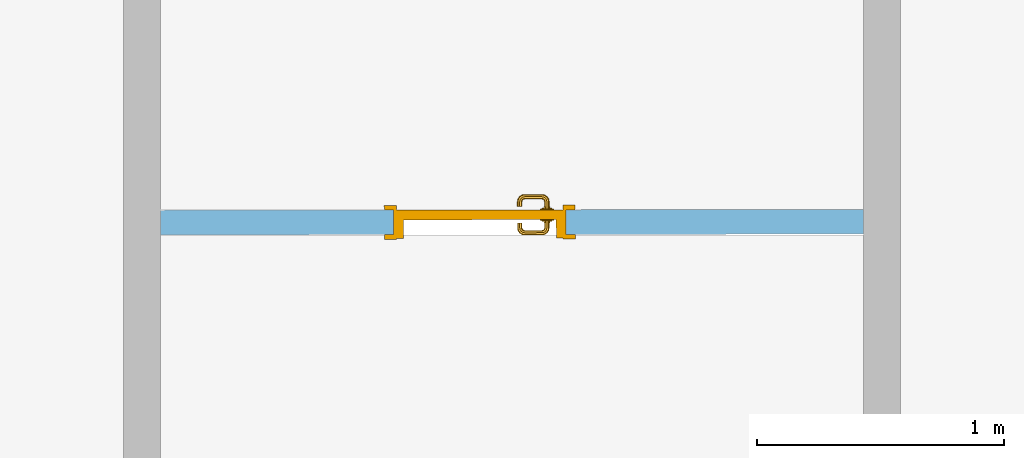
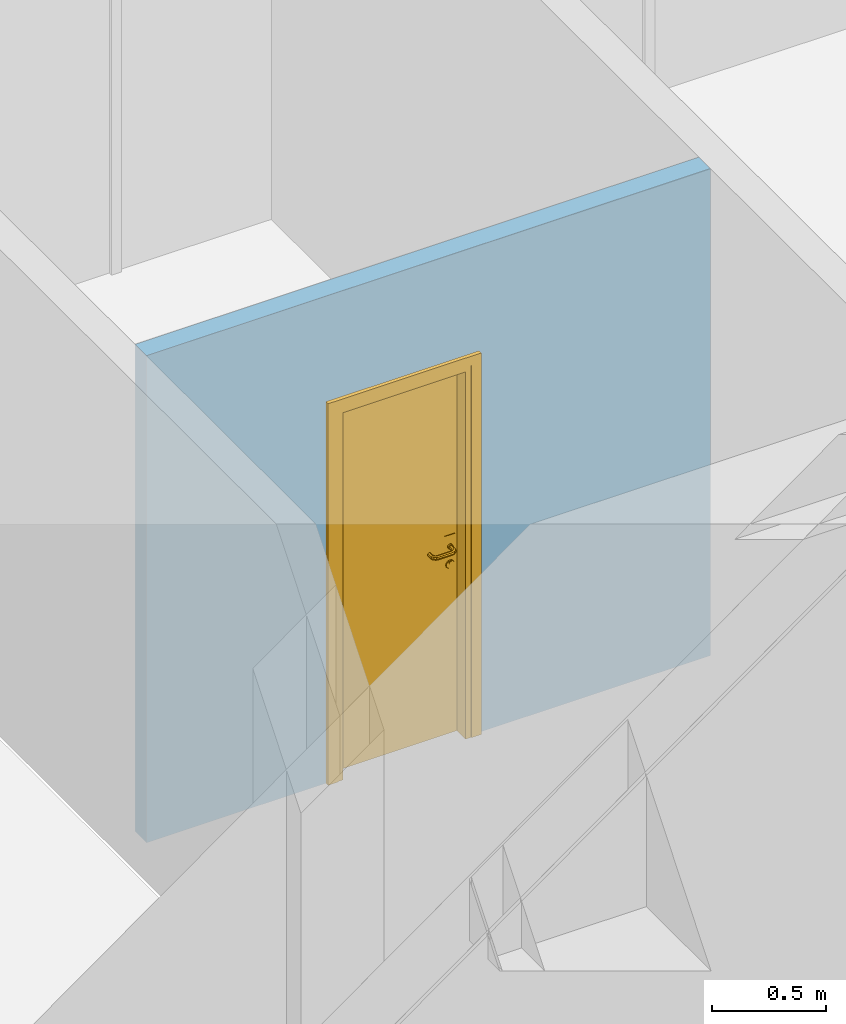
# One storey, part 42 of 127: 1 door, 1 opening, plus 1 element that does not belong to this part.
"""IFC2X3 building model written with IfcOpenShell, lengths in millimetres."""

from ifc_helpers import new_model, entity, si_unit, converted_unit, derived_unit, money_unit, direction, frame, origin_with_axes, origin_2d_with_axis, place, context, subcontext, project, spatial, polyline, rectangle, outline, extrude, open_shell, faceted_brep, surface_model, material, layer, layer_set, layer_usage, type_object, element, fill, save


model = new_model("IFC2X3")

# Units and contexts
model_context = context("Model", 3, precision=1e-05, world=origin_with_axes(), true_north=direction((0.0, 1.0)))
body_context = subcontext(model_context, "Body", "Model", "MODEL_VIEW")
ifc_project = project(units=[si_unit("LENGTHUNIT", "METRE", prefix="MILLI"), si_unit("AREAUNIT", "SQUARE_METRE"), si_unit("VOLUMEUNIT", "CUBIC_METRE"), converted_unit("PLANEANGLEUNIT", "DEGREE", entity("IfcPlaneAngleMeasure", 0.0174532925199), si_unit("PLANEANGLEUNIT", "RADIAN"), dimensions=[0, 0, 0, 0, 0, 0, 0]), si_unit("SOLIDANGLEUNIT", "STERADIAN"), money_unit("EUR"), converted_unit("TIMEUNIT", "Year", entity("IfcTimeMeasure", 31556926.0), si_unit("TIMEUNIT", "SECOND"), dimensions=[0, 0, 1, 0, 0, 0, 0]), si_unit("MASSUNIT", "GRAM", prefix="KILO"), si_unit("THERMODYNAMICTEMPERATUREUNIT", "DEGREE_CELSIUS"), si_unit("LUMINOUSINTENSITYUNIT", "LUMEN"), si_unit("ENERGYUNIT", "JOULE", prefix="MEGA"), derived_unit("THERMALCONDUCTANCEUNIT", [(si_unit("POWERUNIT", "WATT"), 1), (si_unit("LENGTHUNIT", "METRE"), -1), (si_unit("THERMODYNAMICTEMPERATUREUNIT", "KELVIN"), -1)]), derived_unit("SPECIFICHEATCAPACITYUNIT", [(si_unit("ENERGYUNIT", "JOULE"), 1), (si_unit("MASSUNIT", "GRAM", prefix="KILO"), -1), (si_unit("THERMODYNAMICTEMPERATUREUNIT", "KELVIN"), -1)]), derived_unit("MASSDENSITYUNIT", [(si_unit("MASSUNIT", "GRAM", prefix="KILO"), 1), (si_unit("VOLUMEUNIT", "CUBIC_METRE"), -1)])], contexts=[model_context])

# Site, building, storey
site_placement = place(None, origin_with_axes())
site = spatial("IfcSite", under=ifc_project, at=site_placement, Name="Site", CompositionType="ELEMENT")
building_placement = place(site_placement, origin_with_axes())
building = spatial("IfcBuilding", under=site, at=building_placement, Name="Building", CompositionType="ELEMENT")
storey_placement = place(building_placement, origin_with_axes())
storey = spatial("IfcBuildingStorey", under=building, at=storey_placement, Name="1 KORRUS", CompositionType="ELEMENT", Elevation=0.0)

# Wall, opening, door
ifc_material = material(Name="Kivi -Ol.Olev Konstruktsioon")
ifc_layer = layer(ifc_material, 100.0, ventilated="UNKNOWN")
ifc_layer_set = layer_set([ifc_layer], Name="ol.olev ss 100")
ifc_layer_usage = layer_usage(ifc_layer_set, "AXIS2", "POSITIVE", 0.0)
wall_type = type_object("IfcWallType", Name="SW - 040", PredefinedType="NOTDEFINED")
wall_placement = place(storey_placement, frame((37004.3292711, 36838.5610702, 0.0), z_axis=(0.0, 0.0, 1.0), x_axis=(0.999999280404, 0.00119966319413, 0.0)))
wall = element("IfcWallStandardCase", 1, at=wall_placement, inside=storey, type_object=wall_type, material=ifc_layer_usage, Name="ol.olev ss 100", context=body_context, shape_type="SweptSolid", body=[
    extrude(outline(polyline([(150.000107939, 0.0), (2998.62652149, 0.0), (2998.74648789, 100.0), (150.120074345, 99.9999999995), (150.000107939, 0.0)])), origin_with_axes(), (0.0, 0.0, 1.0), 2600.0),
])
opening_placement = place(wall_placement, frame((1443.68667353, 0.0, 0.0), z_axis=(0.0, 0.0, 1.0), x_axis=(1.0, 0.0, 0.0)))
opening = element("IfcOpeningElement", 2, at=opening_placement, cuts=wall, Name="Siseuks * Door 22", context=body_context, shape_type="SweptSolid", body=[
    extrude(rectangle(XDim=700.0, YDim=2000.0, at=origin_2d_with_axis()), frame((0.0, -100.0, 1000.0), z_axis=(0.0, -1.0, 0.0), x_axis=(-1.0, 0.0, 0.0)), (0.0, 0.0, -1.0), 300.000000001),
    extrude(rectangle(XDim=774.0, YDim=2037.0, at=origin_2d_with_axis()), frame((0.0, 0.0, 1018.5), z_axis=(0.0, -1.0, 0.0), x_axis=(-1.0, 0.0, 0.0)), (0.0, 0.0, 1.0), 100.0),
    extrude(rectangle(XDim=774.0, YDim=2037.0, at=origin_2d_with_axis()), frame((0.0, 99.9999999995, 1018.5), z_axis=(0.0, 1.0, 0.0), x_axis=(-1.0, 0.0, 0.0)), (0.0, 0.0, 1.0), 100.0),
])
door_style = type_object("IfcDoorStyle", Name="SU-B111   700×2\xa0000", ConstructionType="NOTDEFINED", OperationType="SINGLE_SWING_LEFT", ParameterTakesPrecedence=False, Sizeable=False)
door_placement = place(opening_placement, frame((-350.0, -9.09494701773e-10, 0.0), z_axis=(0.0, 0.0, 1.0), x_axis=(1.0, 0.0, 0.0)))
door = element("IfcDoor", 3, at=door_placement, inside=storey, type_object=door_style, Name="Siseuks * Door 22", OverallHeight=2000.0, OverallWidth=700.0, context=body_context, shape_type="SurfaceModel", body=[
    faceted_brep([(737.0, -18.9999999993, 0.0), (687.0, -18.9999999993, 0.0), (687.0, 9.09494701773e-10, 0.0), (737.0, 9.09494701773e-10, 0.0), (737.0, -18.9999999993, 2037.0), (687.0, -18.9999999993, 1987.0), (687.0, 9.09494701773e-10, 1987.0), (737.0, 9.09494701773e-10, 2037.0)], [[[0, 1, 2, 3]], [[0, 4, 5, 1]], [[1, 5, 6, 2]], [[3, 2, 6, 7]], [[4, 0, 3, 7]], [[5, 4, 7, 6]]]),
    faceted_brep([(-36.9999999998, -18.9999999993, 2037.0), (13.0000000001, -18.9999999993, 1987.0), (13.0, 0.0, 1987.0), (-36.9999999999, 0.0, 2037.0), (-36.9999999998, -18.9999999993, 0.0), (13.0000000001, -18.9999999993, 0.0), (13.0, 0.0, 0.0), (-36.9999999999, 0.0, 0.0)], [[[0, 1, 2, 3]], [[0, 4, 5, 1]], [[1, 5, 6, 2]], [[3, 2, 6, 7]], [[4, 0, 3, 7]], [[5, 4, 7, 6]]]),
    faceted_brep([(737.0, -18.9999999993, 2037.0), (687.0, -18.9999999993, 1987.0), (687.0, 9.09494701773e-10, 1987.0), (737.0, 9.09494701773e-10, 2037.0), (-36.9999999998, -18.9999999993, 2037.0), (13.0000000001, -18.9999999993, 1987.0), (13.0, 0.0, 1987.0), (-36.9999999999, 0.0, 2037.0)], [[[0, 1, 2, 3]], [[0, 4, 5, 1]], [[1, 5, 6, 2]], [[3, 2, 6, 7]], [[4, 0, 3, 7]], [[5, 4, 7, 6]]]),
    faceted_brep([(737.0, 119.0, 0.0), (737.0, 99.9999999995, 0.0), (687.0, 100.0, 0.0), (687.0, 119.000000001, 0.0), (737.0, 119.0, 2037.0), (737.0, 99.9999999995, 2037.0), (687.0, 100.0, 1987.0), (687.0, 119.000000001, 1987.0)], [[[0, 1, 2, 3]], [[4, 5, 1, 0]], [[1, 5, 6, 2]], [[3, 2, 6, 7]], [[0, 3, 7, 4]], [[7, 6, 5, 4]]]),
    faceted_brep([(-36.9999999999, 119.000000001, 2037.0), (-36.9999999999, 100.0, 2037.0), (13.0000000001, 100.0, 1987.0), (13.0000000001, 119.000000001, 1987.0), (-36.9999999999, 119.000000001, 0.0), (-36.9999999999, 100.0, 0.0), (13.0000000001, 100.0, 0.0), (13.0000000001, 119.000000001, 0.0)], [[[0, 1, 2, 3]], [[4, 5, 1, 0]], [[1, 5, 6, 2]], [[3, 2, 6, 7]], [[0, 3, 7, 4]], [[7, 6, 5, 4]]]),
    faceted_brep([(737.0, 119.0, 2037.0), (737.0, 99.9999999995, 2037.0), (687.0, 100.0, 1987.0), (687.0, 119.000000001, 1987.0), (-36.9999999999, 119.000000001, 2037.0), (-36.9999999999, 100.0, 2037.0), (13.0000000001, 100.0, 1987.0), (13.0000000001, 119.000000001, 1987.0)], [[[0, 1, 2, 3]], [[4, 5, 1, 0]], [[1, 5, 6, 2]], [[3, 2, 6, 7]], [[0, 3, 7, 4]], [[7, 6, 5, 4]]]),
    faceted_brep([(660.0, 60.0000000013, 0.0), (660.0, -14.9999999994, 0.0), (660.0, -14.9999999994, 1960.0), (660.0, 60.0000000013, 1960.0), (672.0, 59.9999999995, 0.0), (672.0, 100.0, 0.0), (700.0, 100.0, 0.0), (700.0, -14.9999999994, 0.0), (700.0, -14.9999999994, 1960.0), (672.0, 59.9999999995, 1960.0), (700.0, 100.0, 1960.0), (672.0, 100.0, 1960.0)], [[[0, 1, 2, 3]], [[4, 5, 6, 7, 1, 0]], [[1, 7, 8, 2]], [[9, 3, 2, 8, 10, 11]], [[9, 4, 0, 3]], [[11, 5, 4, 9]], [[11, 10, 6, 5]], [[6, 10, 8, 7]]]),
    faceted_brep([(28.0, 60.0000000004, 1960.0), (28.0, 100.0, 1960.0), (1.13686837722e-10, 100.0, 1960.0), (1.13686837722e-10, -15.0000000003, 1960.0), (40.0000000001, -14.9999999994, 1960.0), (40.0000000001, 60.0000000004, 1960.0), (28.0, 60.0000000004, 0.0), (28.0, 100.0, 0.0), (1.13686837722e-10, 100.0, 0.0), (1.13686837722e-10, -15.0000000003, 0.0), (40.0000000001, -14.9999999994, 0.0), (40.0000000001, 60.0000000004, 0.0)], [[[0, 1, 2, 3, 4, 5]], [[0, 6, 7, 1]], [[7, 8, 2, 1]], [[2, 8, 9, 3]], [[3, 9, 10, 4]], [[5, 4, 10, 11]], [[5, 11, 6, 0]], [[6, 11, 10, 9, 8, 7]]]),
    faceted_brep([(672.0, 100.0, 1972.0), (28.0, 100.0, 1972.0), (28.0, 100.0, 1960.0), (1.13686837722e-10, 100.0, 1960.0), (1.13686837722e-10, 100.0, 2000.0), (700.0, 100.0, 2000.0), (700.0, 100.0, 1960.0), (672.0, 100.0, 1960.0), (672.0, 59.9999999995, 1972.0), (28.0, 60.0000000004, 1972.0), (28.0, 60.0000000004, 1960.0), (40.0000000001, 60.0000000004, 1960.0), (40.0000000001, -14.9999999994, 1960.0), (1.13686837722e-10, -15.0000000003, 1960.0), (1.13686837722e-10, -15.0000000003, 2000.0), (700.0, -14.9999999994, 2000.0), (700.0, -14.9999999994, 1960.0), (672.0, 59.9999999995, 1960.0), (660.0, -14.9999999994, 1960.0), (660.0, 60.0000000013, 1960.0)], [[[0, 1, 2, 3, 4, 5, 6, 7]], [[0, 8, 9, 1]], [[1, 9, 10, 2]], [[10, 11, 12, 13, 3, 2]], [[4, 3, 13, 14]], [[5, 4, 14, 15]], [[6, 5, 15, 16]], [[17, 7, 6, 16, 18, 19]], [[7, 17, 8, 0]], [[10, 9, 8, 17, 19, 11]], [[19, 18, 12, 11]], [[12, 18, 16, 15, 14, 13]]]),
    faceted_brep([(650.5, 60.0000000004, 1060.0), (593.5, 60.0000000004, 1060.0), (593.5, 57.0000000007, 1060.0), (650.5, 57.0000000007, 1060.0), (650.5, 60.0000000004, 870.0), (593.5, 60.0000000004, 870.0), (593.5, 57.0000000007, 870.0), (650.5, 57.0000000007, 870.0)], [[[0, 1, 2, 3]], [[0, 4, 5, 1]], [[1, 5, 6, 2]], [[3, 2, 6, 7]], [[4, 0, 3, 7]], [[5, 4, 7, 6]]]),
    surface_model("IfcShellBasedSurfaceModel", [(612.0, 47.0000000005, 1000.0), (614.928932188, 46.9999999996, 992.928932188), (614.928932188, 27.6964393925, 992.928932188), (612.0, 27.9849140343, 1000.0), (622.0, 46.9999999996, 990.0), (622.0, 27.0, 990.0), (613.816790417, 22.1053251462, 992.928932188), (611.057796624, 23.2481377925, 1000.0), (614.928932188, 46.9999999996, 1007.07106781), (614.928932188, 27.6964393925, 1007.07106781), (629.071067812, 47.0000000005, 992.928932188), (629.071067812, 26.3035606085, 992.928932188), (620.47759065, 19.3463313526, 990.0), (611.044179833, 17.955820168, 992.928932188), (608.932537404, 20.0674625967, 1000.0), (613.816790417, 22.1053251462, 1007.07106781), (622.0, 46.9999999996, 1010.0), (622.0, 27.0, 1010.0), (632.0, 47.0000000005, 1000.0), (632.0, 26.0150859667, 1000.0), (627.138390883, 16.5873375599, 992.928932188), (616.142135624, 12.8578643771, 990.0), (606.894674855, 15.1832095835, 992.928932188), (605.751862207, 17.9422033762, 1000.0), (611.044179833, 17.955820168, 1007.07106781), (620.47759065, 19.3463313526, 1010.0), (629.071067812, 47.0000000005, 1007.07106781), (629.071067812, 26.3035606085, 1007.07106781), (629.897384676, 15.4445249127, 1000.0), (621.240091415, 7.75990858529, 992.928932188), (609.653668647, 8.52240935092, 990.0), (601.303560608, 14.0710678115, 992.928932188), (601.015085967, 16.9999999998, 1000.0), (606.894674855, 15.1832095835, 1007.07106781), (616.142135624, 12.8578643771, 1010.0), (627.138390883, 16.5873375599, 1007.07106781), (623.351733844, 5.64826615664, 1000.0), (612.41266244, 1.86160911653, 992.928932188), (602.0, 7.00000000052, 990.0), (532.696439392, 14.0710678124, 992.928932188), (532.984914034, 17.0000000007, 1000.0), (601.303560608, 14.0710678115, 1007.07106781), (609.653668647, 8.52240935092, 1010.0), (621.240091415, 7.75990858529, 1007.07106781), (613.555475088, -0.897384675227, 1000.0), (602.696439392, -0.0710678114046, 992.928932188), (532.0, 7.00000000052, 990.0), (527.105325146, 15.1832095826, 992.928932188), (528.248137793, 17.9422033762, 1000.0), (532.696439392, 14.0710678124, 1007.07106781), (602.0, 7.00000000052, 1010.0), (612.41266244, 1.86160911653, 1007.07106781), (602.984914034, -2.99999999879, 1000.0), (531.303560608, -0.0710678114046, 992.928932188), (524.346331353, 8.52240935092, 990.0), (522.955820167, 17.9558201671, 992.928932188), (525.067462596, 20.0674625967, 1000.0), (527.105325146, 15.1832095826, 1007.07106781), (532.0, 7.00000000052, 1010.0), (602.696439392, -0.0710678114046, 1007.07106781), (531.015085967, -2.9999999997, 1000.0), (521.58733756, 1.86160911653, 992.928932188), (517.857864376, 12.8578643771, 990.0), (520.183209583, 22.1053251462, 992.928932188), (522.942203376, 23.2481377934, 1000.0), (522.955820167, 17.9558201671, 1007.07106781), (524.346331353, 8.52240935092, 1010.0), (531.303560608, -0.0710678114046, 1007.07106781), (520.444524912, -0.897384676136, 1000.0), (512.759908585, 7.75990858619, 992.928932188), (513.52240935, 19.3463313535, 990.0), (519.071067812, 27.6964393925, 992.928932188), (522.0, 27.9849140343, 1000.0), (520.183209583, 22.1053251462, 1007.07106781), (517.857864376, 12.8578643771, 1010.0), (521.58733756, 1.86160911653, 1007.07106781), (510.648266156, 5.64826615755, 1000.0), (506.861609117, 16.5873375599, 992.928932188), (512.0, 27.000000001, 990.0), (519.071067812, 47.0000000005, 992.928932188), (522.0, 46.9999999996, 1000.0), (519.071067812, 27.6964393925, 1007.07106781), (513.52240935, 19.3463313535, 1010.0), (512.759908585, 7.75990858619, 1007.07106781), (504.102615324, 15.4445249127, 1000.0), (504.928932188, 26.3035606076, 992.928932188), (512.0, 47.0000000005, 990.0), (504.928932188, 46.9999999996, 992.928932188), (502.0, 47.0000000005, 1000.0), (504.928932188, 46.9999999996, 1007.07106781), (512.0, 47.0000000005, 1010.0), (519.071067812, 47.0000000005, 1007.07106781), (512.0, 27.000000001, 1010.0), (506.861609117, 16.5873375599, 1007.07106781), (502.0, 26.0150859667, 1000.0), (504.928932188, 26.3035606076, 1007.07106781)], [open_shell([[[0, 1, 2, 3]], [[1, 4, 5, 2]], [[3, 2, 6, 7]], [[8, 0, 3, 9]], [[4, 10, 11, 5]], [[2, 5, 12, 6]], [[7, 6, 13, 14]], [[9, 3, 7, 15]], [[16, 8, 9, 17]], [[10, 18, 19, 11]], [[5, 11, 20, 12]], [[6, 12, 21, 13]], [[14, 13, 22, 23]], [[15, 7, 14, 24]], [[17, 9, 15, 25]], [[26, 16, 17, 27]], [[18, 26, 27, 19]], [[11, 19, 28, 20]], [[12, 20, 29, 21]], [[13, 21, 30, 22]], [[23, 22, 31, 32]], [[24, 14, 23, 33]], [[25, 15, 24, 34]], [[27, 17, 25, 35]], [[19, 27, 35, 28]], [[20, 28, 36, 29]], [[21, 29, 37, 30]], [[22, 30, 38, 31]], [[32, 31, 39, 40]], [[33, 23, 32, 41]], [[34, 24, 33, 42]], [[35, 25, 34, 43]], [[28, 35, 43, 36]], [[29, 36, 44, 37]], [[30, 37, 45, 38]], [[31, 38, 46, 39]], [[40, 39, 47, 48]], [[41, 32, 40, 49]], [[42, 33, 41, 50]], [[43, 34, 42, 51]], [[36, 43, 51, 44]], [[37, 44, 52, 45]], [[38, 45, 53, 46]], [[39, 46, 54, 47]], [[48, 47, 55, 56]], [[49, 40, 48, 57]], [[50, 41, 49, 58]], [[51, 42, 50, 59]], [[44, 51, 59, 52]], [[45, 52, 60, 53]], [[46, 53, 61, 54]], [[47, 54, 62, 55]], [[56, 55, 63, 64]], [[57, 48, 56, 65]], [[58, 49, 57, 66]], [[59, 50, 58, 67]], [[52, 59, 67, 60]], [[53, 60, 68, 61]], [[54, 61, 69, 62]], [[55, 62, 70, 63]], [[64, 63, 71, 72]], [[65, 56, 64, 73]], [[66, 57, 65, 74]], [[67, 58, 66, 75]], [[60, 67, 75, 68]], [[61, 68, 76, 69]], [[62, 69, 77, 70]], [[63, 70, 78, 71]], [[72, 71, 79, 80]], [[73, 64, 72, 81]], [[74, 65, 73, 82]], [[75, 66, 74, 83]], [[68, 75, 83, 76]], [[69, 76, 84, 77]], [[70, 77, 85, 78]], [[71, 78, 86, 79]], [[80, 79, 86, 87, 88, 89, 90, 91]], [[81, 72, 80, 91]], [[82, 73, 81, 92]], [[83, 74, 82, 93]], [[76, 83, 93, 84]], [[77, 84, 94, 85]], [[78, 85, 87, 86]], [[85, 94, 88, 87]], [[94, 95, 89, 88]], [[95, 92, 90, 89]], [[92, 81, 91, 90]], [[93, 82, 92, 95]], [[84, 93, 95, 94]]])]),
    faceted_brep([(611.607695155, 47.0000000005, 994.0), (610.0, 47.0000000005, 1000.0), (609.0, 57.0000000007, 1000.0), (610.741669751, 56.9999999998, 993.5), (616.0, 47.0000000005, 989.607695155), (622.0, 46.9999999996, 988.0), (628.0, 47.0000000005, 989.607695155), (632.392304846, 47.0000000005, 994.0), (634.0, 47.0000000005, 1000.0), (632.392304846, 47.0000000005, 1006.0), (628.0, 47.0000000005, 1010.39230485), (622.0, 46.9999999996, 1012.0), (616.0, 47.0000000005, 1010.39230485), (611.607695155, 47.0000000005, 1006.0), (610.741669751, 56.9999999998, 1006.5), (615.5, 57.0000000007, 1011.25833025), (622.0, 56.9999999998, 1013.0), (628.5, 57.0000000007, 1011.25833025), (633.258330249, 57.0000000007, 1006.5), (635.0, 56.9999999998, 1000.0), (633.258330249, 57.0000000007, 993.5), (628.5, 57.0000000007, 988.741669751), (622.0, 56.9999999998, 987.0), (615.5, 57.0000000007, 988.741669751)], [[[0, 1, 2, 3]], [[1, 0, 4, 5, 6, 7, 8, 9, 10, 11, 12, 13]], [[1, 13, 14, 2]], [[2, 14, 15, 16, 17, 18, 19, 20, 21, 22, 23, 3]], [[4, 0, 3, 23]], [[5, 4, 23, 22]], [[6, 5, 22, 21]], [[7, 6, 21, 20]], [[8, 7, 20, 19]], [[9, 8, 19, 18]], [[10, 9, 18, 17]], [[11, 10, 17, 16]], [[12, 11, 16, 15]], [[13, 12, 15, 14]]]),
    faceted_brep([(604.679491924, 52.9999999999, 895.0), (602.0, 52.9999999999, 905.0), (600.0, 56.9999999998, 905.0), (602.947441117, 57.0000000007, 894.0), (612.0, 53.0000000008, 887.679491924), (622.0, 53.0000000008, 885.0), (632.0, 53.0000000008, 887.679491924), (639.320508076, 53.0000000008, 895.0), (642.0, 52.9999999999, 905.0), (639.320508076, 53.0000000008, 915.0), (632.0, 53.0000000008, 922.320508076), (622.0, 53.0000000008, 925.0), (612.0, 53.0000000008, 922.320508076), (604.679491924, 52.9999999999, 915.0), (602.947441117, 57.0000000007, 916.0), (611.0, 57.0000000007, 924.052558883), (622.0, 56.9999999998, 927.0), (633.0, 57.0000000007, 924.052558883), (641.052558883, 57.0000000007, 916.0), (644.0, 56.9999999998, 905.0), (641.052558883, 57.0000000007, 894.0), (633.0, 57.0000000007, 885.947441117), (622.0, 56.9999999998, 883.0), (611.0, 57.0000000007, 885.947441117)], [[[0, 1, 2, 3]], [[1, 0, 4, 5, 6, 7, 8, 9, 10, 11, 12, 13]], [[1, 13, 14, 2]], [[2, 14, 15, 16, 17, 18, 19, 20, 21, 22, 23, 3]], [[4, 0, 3, 23]], [[5, 4, 23, 22]], [[6, 5, 22, 21]], [[7, 6, 21, 20]], [[8, 7, 20, 19]], [[9, 8, 19, 18]], [[10, 9, 18, 17]], [[11, 10, 17, 16]], [[12, 11, 16, 15]], [[13, 12, 15, 14]]]),
    faceted_brep([(617.050252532, 51.0000000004, 909.050252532), (615.0, 51.0000000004, 914.0), (614.0, 53.0000000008, 914.0), (616.343145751, 52.9999999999, 908.343145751), (622.0, 51.0000000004, 907.0), (626.949747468, 51.0000000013, 909.050252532), (629.0, 51.0000000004, 914.0), (626.949747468, 51.0000000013, 918.949747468), (622.0, 51.0000000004, 921.0), (617.050252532, 51.0000000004, 918.949747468), (616.343145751, 52.9999999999, 919.656854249), (622.0, 53.0000000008, 922.0), (627.65685425, 52.9999999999, 919.656854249), (630.0, 52.9999999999, 914.0), (627.65685425, 52.9999999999, 908.343145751), (622.0, 53.0000000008, 906.0)], [[[0, 1, 2, 3]], [[1, 0, 4, 5, 6, 7, 8, 9]], [[1, 9, 10, 2]], [[2, 10, 11, 12, 13, 14, 15, 3]], [[4, 0, 3, 15]], [[5, 4, 15, 14]], [[6, 5, 14, 13]], [[7, 6, 13, 12]], [[8, 7, 12, 11]], [[9, 8, 11, 10]]]),
    faceted_brep([(650.5, 99.9999999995, 1060.0), (650.5, 103.000000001, 1060.0), (593.5, 103.0, 1060.0), (593.5, 100.0, 1060.0), (650.5, 99.9999999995, 870.0), (650.5, 103.000000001, 870.0), (593.5, 103.0, 870.0), (593.5, 100.0, 870.0)], [[[0, 1, 2, 3]], [[4, 5, 1, 0]], [[1, 5, 6, 2]], [[3, 2, 6, 7]], [[0, 3, 7, 4]], [[7, 6, 5, 4]]]),
    surface_model("IfcShellBasedSurfaceModel", [(612.0, 113.0, 1000.0), (612.0, 132.015085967, 1000.0), (614.928932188, 132.303560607, 992.928932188), (614.928932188, 113.0, 992.928932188), (614.928932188, 113.0, 1007.07106781), (614.928932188, 132.303560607, 1007.07106781), (611.057796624, 136.751862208, 1000.0), (613.816790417, 137.894674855, 992.928932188), (622.0, 133.000000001, 990.0), (622.0, 113.0, 990.0), (622.0, 113.0, 1010.0), (622.0, 133.000000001, 1010.0), (613.816790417, 137.894674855, 1007.07106781), (608.932537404, 139.932537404, 1000.0), (611.044179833, 142.044179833, 992.928932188), (620.47759065, 140.653668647, 990.0), (629.071067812, 133.696439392, 992.928932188), (629.071067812, 113.0, 992.928932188), (629.071067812, 113.0, 1007.07106781), (629.071067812, 133.696439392, 1007.07106781), (620.47759065, 140.653668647, 1010.0), (611.044179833, 142.044179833, 1007.07106781), (605.751862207, 142.057796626, 1000.0), (606.894674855, 144.816790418, 992.928932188), (616.142135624, 147.142135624, 990.0), (627.138390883, 143.41266244, 992.928932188), (632.0, 133.984914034, 1000.0), (632.0, 112.999999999, 1000.0), (627.138390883, 143.41266244, 1007.07106781), (616.142135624, 147.142135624, 1010.0), (606.894674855, 144.816790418, 1007.07106781), (601.015085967, 143.000000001, 1000.0), (601.303560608, 145.928932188, 992.928932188), (609.653668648, 151.477590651, 990.0), (621.240091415, 152.240091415, 992.928932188), (629.897384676, 144.555475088, 1000.0), (621.240091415, 152.240091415, 1007.07106781), (609.653668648, 151.477590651, 1010.0), (601.303560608, 145.928932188, 1007.07106781), (532.984914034, 143.0, 1000.0), (532.696439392, 145.928932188, 992.928932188), (602.0, 153.0, 990.0), (612.41266244, 158.138390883, 992.928932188), (623.351733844, 154.351733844, 1000.0), (612.41266244, 158.138390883, 1007.07106781), (602.0, 153.0, 1010.0), (532.696439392, 145.928932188, 1007.07106781), (528.248137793, 142.057796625, 1000.0), (527.105325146, 144.816790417, 992.928932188), (532.0, 153.0, 990.0), (602.696439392, 160.071067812, 992.928932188), (613.555475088, 160.897384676, 1000.0), (602.696439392, 160.071067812, 1007.07106781), (532.0, 153.0, 1010.0), (527.105325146, 144.816790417, 1007.07106781), (525.067462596, 139.932537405, 1000.0), (522.955820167, 142.044179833, 992.928932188), (524.346331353, 151.477590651, 990.0), (531.303560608, 160.071067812, 992.928932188), (602.984914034, 163.000000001, 1000.0), (531.303560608, 160.071067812, 1007.07106781), (524.346331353, 151.477590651, 1010.0), (522.955820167, 142.044179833, 1007.07106781), (522.942203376, 136.751862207, 1000.0), (520.183209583, 137.894674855, 992.928932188), (517.857864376, 147.142135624, 990.0), (521.58733756, 158.138390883, 992.928932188), (531.015085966, 163.0, 1000.0), (521.58733756, 158.138390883, 1007.07106781), (517.857864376, 147.142135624, 1010.0), (520.183209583, 137.894674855, 1007.07106781), (522.0, 132.015085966, 1000.0), (519.071067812, 132.303560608, 992.928932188), (513.52240935, 140.653668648, 990.0), (512.759908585, 152.240091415, 992.928932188), (520.444524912, 160.897384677, 1000.0), (512.759908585, 152.240091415, 1007.07106781), (513.52240935, 140.653668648, 1010.0), (519.071067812, 132.303560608, 1007.07106781), (522.0, 113.0, 1000.0), (519.071067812, 113.000000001, 992.928932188), (512.0, 133.0, 990.0), (506.861609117, 143.41266244, 992.928932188), (510.648266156, 154.351733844, 1000.0), (506.861609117, 143.41266244, 1007.07106781), (512.0, 133.0, 1010.0), (519.071067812, 113.000000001, 1007.07106781), (512.0, 113.0, 1010.0), (504.928932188, 113.0, 1007.07106781), (502.0, 113.0, 1000.0), (504.928932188, 113.0, 992.928932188), (512.0, 113.0, 990.0), (504.928932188, 133.696439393, 992.928932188), (504.102615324, 144.555475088, 1000.0), (504.928932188, 133.696439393, 1007.07106781), (502.0, 133.984914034, 1000.0)], [open_shell([[[0, 1, 2, 3]], [[4, 5, 1, 0]], [[1, 6, 7, 2]], [[3, 2, 8, 9]], [[10, 11, 5, 4]], [[5, 12, 6, 1]], [[6, 13, 14, 7]], [[2, 7, 15, 8]], [[9, 8, 16, 17]], [[18, 19, 11, 10]], [[11, 20, 12, 5]], [[12, 21, 13, 6]], [[13, 22, 23, 14]], [[7, 14, 24, 15]], [[8, 15, 25, 16]], [[17, 16, 26, 27]], [[27, 26, 19, 18]], [[19, 28, 20, 11]], [[20, 29, 21, 12]], [[21, 30, 22, 13]], [[22, 31, 32, 23]], [[14, 23, 33, 24]], [[15, 24, 34, 25]], [[16, 25, 35, 26]], [[26, 35, 28, 19]], [[28, 36, 29, 20]], [[29, 37, 30, 21]], [[30, 38, 31, 22]], [[31, 39, 40, 32]], [[23, 32, 41, 33]], [[24, 33, 42, 34]], [[25, 34, 43, 35]], [[35, 43, 36, 28]], [[36, 44, 37, 29]], [[37, 45, 38, 30]], [[38, 46, 39, 31]], [[39, 47, 48, 40]], [[32, 40, 49, 41]], [[33, 41, 50, 42]], [[34, 42, 51, 43]], [[43, 51, 44, 36]], [[44, 52, 45, 37]], [[45, 53, 46, 38]], [[46, 54, 47, 39]], [[47, 55, 56, 48]], [[40, 48, 57, 49]], [[41, 49, 58, 50]], [[42, 50, 59, 51]], [[51, 59, 52, 44]], [[52, 60, 53, 45]], [[53, 61, 54, 46]], [[54, 62, 55, 47]], [[55, 63, 64, 56]], [[48, 56, 65, 57]], [[49, 57, 66, 58]], [[50, 58, 67, 59]], [[59, 67, 60, 52]], [[60, 68, 61, 53]], [[61, 69, 62, 54]], [[62, 70, 63, 55]], [[63, 71, 72, 64]], [[56, 64, 73, 65]], [[57, 65, 74, 66]], [[58, 66, 75, 67]], [[67, 75, 68, 60]], [[68, 76, 69, 61]], [[69, 77, 70, 62]], [[70, 78, 71, 63]], [[71, 79, 80, 72]], [[64, 72, 81, 73]], [[65, 73, 82, 74]], [[66, 74, 83, 75]], [[75, 83, 76, 68]], [[76, 84, 77, 69]], [[77, 85, 78, 70]], [[78, 86, 79, 71]], [[79, 86, 87, 88, 89, 90, 91, 80]], [[72, 80, 91, 81]], [[73, 81, 92, 82]], [[74, 82, 93, 83]], [[83, 93, 84, 76]], [[84, 94, 85, 77]], [[85, 87, 86, 78]], [[94, 88, 87, 85]], [[95, 89, 88, 94]], [[92, 90, 89, 95]], [[81, 91, 90, 92]], [[82, 92, 95, 93]], [[93, 95, 94, 84]]])]),
    faceted_brep([(611.607695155, 113.000000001, 994.0), (610.741669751, 103.000000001, 993.5), (609.0, 103.0, 1000.0), (610.0, 113.0, 1000.0), (616.0, 113.0, 989.607695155), (615.5, 103.0, 988.741669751), (622.0, 103.0, 987.0), (628.5, 103.000000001, 988.741669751), (633.258330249, 103.0, 993.5), (635.0, 103.000000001, 1000.0), (633.258330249, 103.0, 1006.5), (628.5, 103.000000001, 1011.25833025), (622.0, 103.0, 1013.0), (615.5, 103.0, 1011.25833025), (610.741669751, 103.000000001, 1006.5), (611.607695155, 113.000000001, 1006.0), (616.0, 113.0, 1010.39230485), (622.0, 113.0, 1012.0), (628.0, 113.0, 1010.39230485), (632.392304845, 113.0, 1006.0), (634.0, 113.0, 1000.0), (632.392304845, 113.0, 994.0), (628.0, 113.0, 989.607695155), (622.0, 113.0, 988.0)], [[[0, 1, 2, 3]], [[4, 5, 1, 0]], [[2, 1, 5, 6, 7, 8, 9, 10, 11, 12, 13, 14]], [[3, 2, 14, 15]], [[3, 15, 16, 17, 18, 19, 20, 21, 22, 23, 4, 0]], [[23, 6, 5, 4]], [[22, 7, 6, 23]], [[21, 8, 7, 22]], [[20, 9, 8, 21]], [[19, 10, 9, 20]], [[18, 11, 10, 19]], [[17, 12, 11, 18]], [[16, 13, 12, 17]], [[15, 14, 13, 16]]]),
    faceted_brep([(604.679491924, 107.0, 895.0), (602.947441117, 103.0, 894.0), (600.0, 103.000000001, 905.0), (602.0, 107.0, 905.0), (612.0, 107.0, 887.679491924), (611.0, 103.000000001, 885.947441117), (622.0, 103.0, 883.0), (633.0, 103.0, 885.947441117), (641.052558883, 103.000000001, 894.0), (644.0, 103.0, 905.0), (641.052558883, 103.000000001, 916.0), (633.0, 103.0, 924.052558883), (622.0, 103.0, 927.0), (611.0, 103.000000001, 924.052558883), (602.947441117, 103.0, 916.0), (604.679491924, 107.0, 915.0), (612.0, 107.0, 922.320508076), (622.0, 107.000000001, 925.0), (632.0, 107.000000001, 922.320508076), (639.320508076, 107.000000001, 915.0), (642.0, 107.0, 905.0), (639.320508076, 107.000000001, 895.0), (632.0, 107.000000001, 887.679491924), (622.0, 107.000000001, 885.0)], [[[0, 1, 2, 3]], [[4, 5, 1, 0]], [[2, 1, 5, 6, 7, 8, 9, 10, 11, 12, 13, 14]], [[3, 2, 14, 15]], [[3, 15, 16, 17, 18, 19, 20, 21, 22, 23, 4, 0]], [[23, 6, 5, 4]], [[22, 7, 6, 23]], [[21, 8, 7, 22]], [[20, 9, 8, 21]], [[19, 10, 9, 20]], [[18, 11, 10, 19]], [[17, 12, 11, 18]], [[16, 13, 12, 17]], [[15, 14, 13, 16]]]),
    faceted_brep([(617.050252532, 109.0, 909.050252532), (616.343145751, 107.0, 908.343145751), (614.0, 107.000000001, 914.0), (615.0, 108.999999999, 914.0), (622.0, 109.0, 907.0), (622.0, 107.000000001, 906.0), (627.656854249, 107.0, 908.343145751), (630.0, 107.0, 914.0), (627.656854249, 107.0, 919.656854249), (622.0, 107.000000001, 922.0), (616.343145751, 107.0, 919.656854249), (617.050252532, 109.0, 918.949747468), (622.0, 109.0, 921.0), (626.949747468, 109.0, 918.949747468), (629.0, 109.0, 914.0), (626.949747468, 109.0, 909.050252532)], [[[0, 1, 2, 3]], [[4, 5, 1, 0]], [[2, 1, 5, 6, 7, 8, 9, 10]], [[3, 2, 10, 11]], [[3, 11, 12, 13, 14, 15, 4, 0]], [[15, 6, 5, 4]], [[14, 7, 6, 15]], [[13, 8, 7, 14]], [[12, 9, 8, 13]], [[11, 10, 9, 12]]]),
    faceted_brep([(28.0, 100.0, 0.0), (672.0, 100.0, 0.0), (672.0, 59.9999999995, 0.0), (28.0, 60.0000000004, 0.0), (28.0, 100.0, 1972.0), (672.0, 100.0, 1972.0), (672.0, 59.9999999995, 1972.0), (28.0, 60.0000000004, 1972.0)], [[[0, 1, 2, 3]], [[0, 4, 5, 1]], [[1, 5, 6, 2]], [[3, 2, 6, 7]], [[4, 0, 3, 7]], [[5, 4, 7, 6]]]),
])
fill(opening, door)

save(model, "model.ifc")
